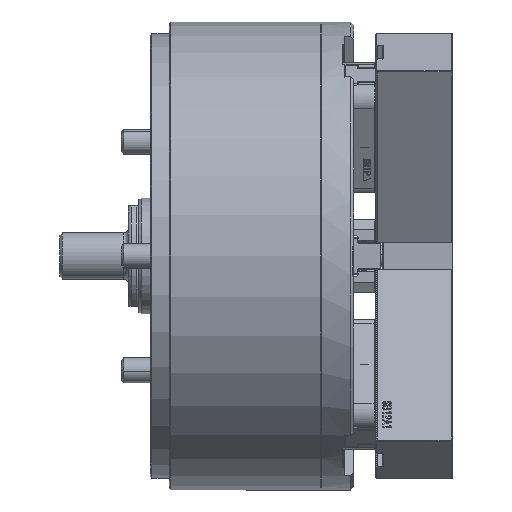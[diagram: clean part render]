
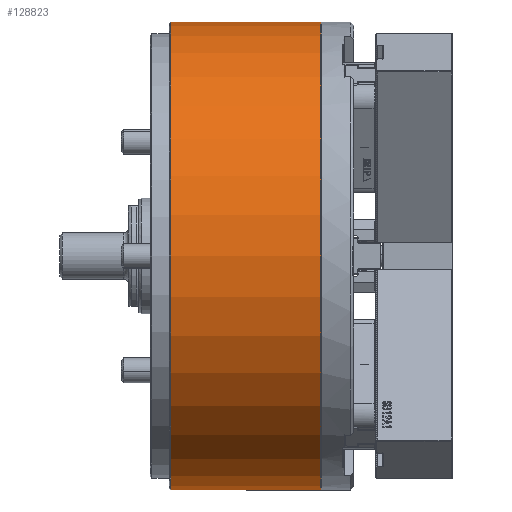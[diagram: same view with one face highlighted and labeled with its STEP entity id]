
A CAD part, front view. The second image highlights one B-rep face of the part: STEP entity #128823.
In plain terms, the highlighted cylindrical face has radius 152 mm (diameter 304 mm), a partial arc.
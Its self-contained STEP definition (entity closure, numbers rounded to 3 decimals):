
#2473 = DIRECTION ( 'NONE',  ( -1., 0., 0. ) ) ;
#2515 = CARTESIAN_POINT ( 'NONE',  ( -128.459, 0., 152. ) ) ;
#5537 = EDGE_CURVE ( 'NONE', #13617, #80713, #123773, .T. ) ;
#5696 = DIRECTION ( 'NONE',  ( -1., 0., 0. ) ) ;
#13617 = VERTEX_POINT ( 'NONE', #105682 ) ;
#15623 = EDGE_LOOP ( 'NONE', ( #165286, #156568, #59613, #93873 ) ) ;
#21653 = LINE ( 'NONE', #2515, #123385 ) ;
#27311 = VECTOR ( 'NONE', #133977, 1000. ) ;
#41272 = CARTESIAN_POINT ( 'NONE',  ( -7.4, 0., 152. ) ) ;
#42772 = VERTEX_POINT ( 'NONE', #118146 ) ;
#44848 = EDGE_CURVE ( 'NONE', #80713, #50279, #21653, .T. ) ;
#45213 = DIRECTION ( 'NONE',  ( 0., 0., 1. ) ) ;
#50279 = VERTEX_POINT ( 'NONE', #115177 ) ;
#52888 = DIRECTION ( 'NONE',  ( -1., 0., 0. ) ) ;
#56672 = EDGE_CURVE ( 'NONE', #42772, #50279, #63206, .T. ) ;
#59613 = ORIENTED_EDGE ( 'NONE', *, *, #44848, .T. ) ;
#63156 = FACE_OUTER_BOUND ( 'NONE', #15623, .T. ) ;
#63206 = CIRCLE ( 'NONE', #88801, 152. ) ;
#80713 = VERTEX_POINT ( 'NONE', #41272 ) ;
#81969 = CARTESIAN_POINT ( 'NONE',  ( -104.7, 0., 0. ) ) ;
#88801 = AXIS2_PLACEMENT_3D ( 'NONE', #81969, #2473, #95342 ) ;
#91868 = AXIS2_PLACEMENT_3D ( 'NONE', #164677, #5696, #45213 ) ;
#93873 = ORIENTED_EDGE ( 'NONE', *, *, #56672, .F. ) ;
#95342 = DIRECTION ( 'NONE',  ( 0., 0., 1. ) ) ;
#105682 = CARTESIAN_POINT ( 'NONE',  ( -7.4, 0., -152. ) ) ;
#114386 = AXIS2_PLACEMENT_3D ( 'NONE', #132269, #52888, #145591 ) ;
#115177 = CARTESIAN_POINT ( 'NONE',  ( -104.7, 0., 152. ) ) ;
#118146 = CARTESIAN_POINT ( 'NONE',  ( -104.7, 0., -152. ) ) ;
#120305 = EDGE_CURVE ( 'NONE', #13617, #42772, #129001, .T. ) ;
#123385 = VECTOR ( 'NONE', #160869, 1000. ) ;
#123773 = CIRCLE ( 'NONE', #114386, 152. ) ;
#128823 = ADVANCED_FACE ( 'NONE', ( #63156 ), #129569, .T. ) ;
#129001 = LINE ( 'NONE', #147288, #27311 ) ;
#129569 = CYLINDRICAL_SURFACE ( 'NONE', #91868, 152. ) ;
#132269 = CARTESIAN_POINT ( 'NONE',  ( -7.4, 0., 0. ) ) ;
#133977 = DIRECTION ( 'NONE',  ( -1., 0., 0. ) ) ;
#145591 = DIRECTION ( 'NONE',  ( 0., 0., 1. ) ) ;
#147288 = CARTESIAN_POINT ( 'NONE',  ( -128.459, 0., -152. ) ) ;
#156568 = ORIENTED_EDGE ( 'NONE', *, *, #5537, .T. ) ;
#160869 = DIRECTION ( 'NONE',  ( -1., 0., 0. ) ) ;
#164677 = CARTESIAN_POINT ( 'NONE',  ( -128.459, 0., 0. ) ) ;
#165286 = ORIENTED_EDGE ( 'NONE', *, *, #120305, .F. ) ;
